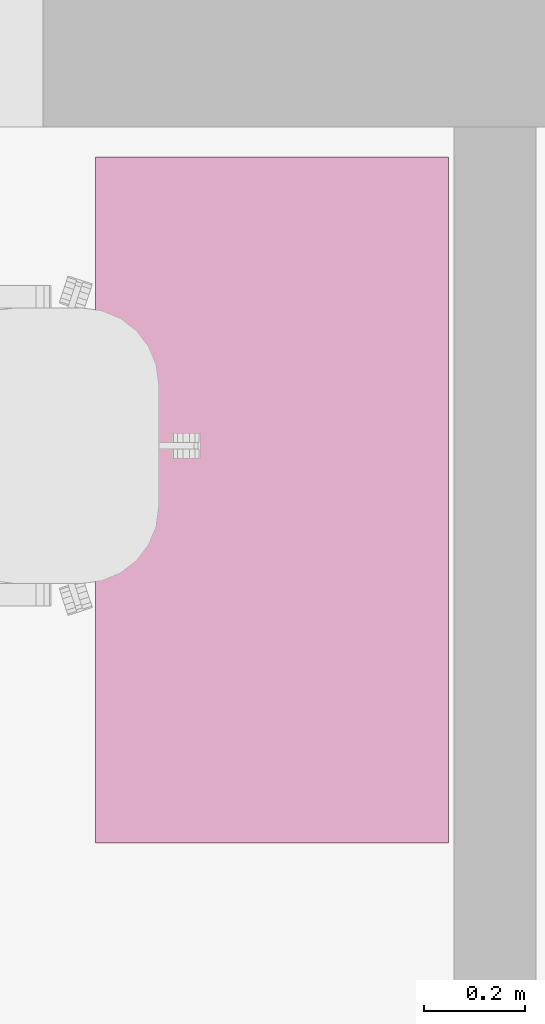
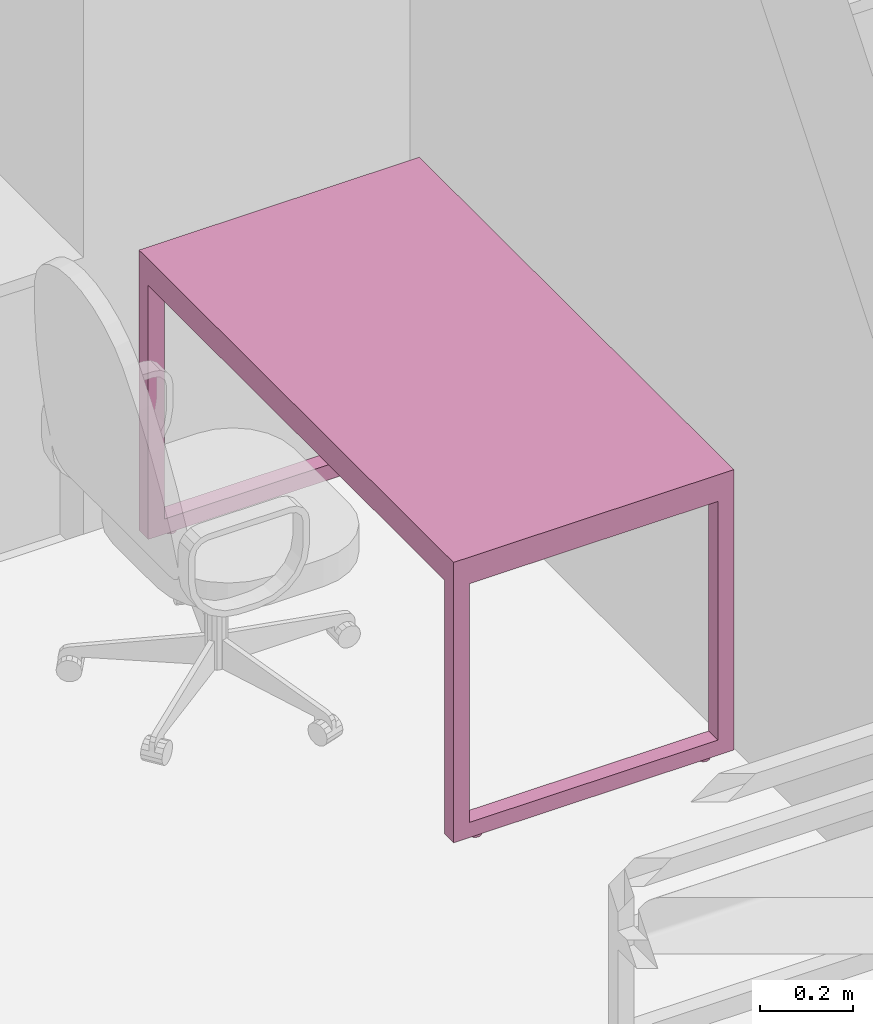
# One storey, part 43 of 46: 1 furnishing.
"""IFC2X3 building model written with IfcOpenShell, lengths in millimetres."""

from ifc_helpers import new_model, entity, si_unit, converted_unit, derived_unit, direction, frame, origin, place, context, subcontext, project, spatial, faceted_brep, source, transform, mapped, material, material_list, type_object, type_shapes, element, save


model = new_model("IFC2X3")

# Units and contexts
model_context = context("Model", 3, precision=0.01, world=origin(), true_north=direction((6.12303176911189e-17, 1.0)))
body_context = subcontext(model_context, "Body", "Model", "MODEL_VIEW")
ifc_project = project(units=[si_unit("LENGTHUNIT", "METRE", prefix="MILLI"), si_unit("AREAUNIT", "SQUARE_METRE"), si_unit("VOLUMEUNIT", "CUBIC_METRE"), converted_unit("PLANEANGLEUNIT", "DEGREE", entity("IfcRatioMeasure", 0.0174532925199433), si_unit("PLANEANGLEUNIT", "RADIAN"), dimensions=[0, 0, 0, 0, 0, 0, 0]), si_unit("MASSUNIT", "GRAM", prefix="KILO"), derived_unit("MASSDENSITYUNIT", [(si_unit("MASSUNIT", "GRAM", prefix="KILO"), 1), (si_unit("LENGTHUNIT", "METRE"), -3)]), si_unit("TIMEUNIT", "SECOND"), si_unit("FREQUENCYUNIT", "HERTZ"), si_unit("THERMODYNAMICTEMPERATUREUNIT", "DEGREE_CELSIUS"), derived_unit("THERMALTRANSMITTANCEUNIT", [(si_unit("MASSUNIT", "GRAM", prefix="KILO"), 1), (si_unit("THERMODYNAMICTEMPERATUREUNIT", "KELVIN"), -1), (si_unit("TIMEUNIT", "SECOND"), -3)]), derived_unit("VOLUMETRICFLOWRATEUNIT", [(si_unit("LENGTHUNIT", "METRE"), 3), (si_unit("TIMEUNIT", "SECOND"), -1)]), si_unit("ELECTRICCURRENTUNIT", "AMPERE"), si_unit("ELECTRICVOLTAGEUNIT", "VOLT"), si_unit("POWERUNIT", "WATT"), si_unit("FORCEUNIT", "NEWTON", prefix="KILO"), si_unit("ILLUMINANCEUNIT", "LUX"), si_unit("LUMINOUSFLUXUNIT", "LUMEN"), si_unit("LUMINOUSINTENSITYUNIT", "CANDELA"), derived_unit("USERDEFINED", [(si_unit("MASSUNIT", "GRAM", prefix="KILO"), -1), (si_unit("LENGTHUNIT", "METRE"), -2), (si_unit("TIMEUNIT", "SECOND"), 3), (si_unit("LUMINOUSFLUXUNIT", "LUMEN"), 1)]), derived_unit("LINEARVELOCITYUNIT", [(si_unit("LENGTHUNIT", "METRE"), 1), (si_unit("TIMEUNIT", "SECOND"), -1)]), si_unit("PRESSUREUNIT", "PASCAL"), derived_unit("USERDEFINED", [(si_unit("LENGTHUNIT", "METRE"), -2), (si_unit("MASSUNIT", "GRAM", prefix="KILO"), 1), (si_unit("TIMEUNIT", "SECOND"), -2)]), derived_unit("LINEARFORCEUNIT", [(si_unit("MASSUNIT", "GRAM", prefix="KILO"), 1), (si_unit("LENGTHUNIT", "METRE"), 1), (si_unit("TIMEUNIT", "SECOND"), -2), (si_unit("LENGTHUNIT", "METRE"), -1)]), derived_unit("PLANARFORCEUNIT", [(si_unit("MASSUNIT", "GRAM", prefix="KILO"), 1), (si_unit("LENGTHUNIT", "METRE"), 1), (si_unit("TIMEUNIT", "SECOND"), -2), (si_unit("LENGTHUNIT", "METRE"), -2)])], contexts=[model_context])

# Site, building, storey, space
site_placement = place(None, origin())
site = spatial("IfcSite", under=ifc_project, at=site_placement, Name="Default", CompositionType="ELEMENT")
building_placement = place(site_placement, origin())
building = spatial("IfcBuilding", under=site, at=building_placement, Name="SMA ARH", CompositionType="ELEMENT")
storey_placement = place(building_placement, origin())
storey = spatial("IfcBuildingStorey", under=building, at=storey_placement, Name="1 Korrus", CompositionType="ELEMENT", Elevation=0.0)
space_placement = place(storey_placement, origin())
space = spatial("IfcSpace", under=storey, at=space_placement, Name="1-30", CompositionType="ELEMENT", InteriorOrExteriorSpace="INTERNAL")

# Furnishing
ifc_material = material(Name="<Unnamed>")
ifc_material_list = material_list([ifc_material, ifc_material])
furniture_type = type_object("IfcFurnitureType", Name="kirjutuslaud 1360x700mm:kirjutuslaud 1360x700mm", material=ifc_material_list)
shared_shape = source(origin(), body_context, "Body", "Brep", [
    faceted_brep([(680.0, -350.0, 720.0), (680.0, 350.0, 720.0), (680.0, 350.0, 750.0), (680.0, -350.0, 750.0), (-680.0, -350.0, 720.0), (-680.0, -350.0, 750.0), (-680.0, 350.0, 750.0), (-680.0, 350.0, 720.0)], [[[0, 1, 2, 3]], [[4, 5, 6, 7]], [[1, 0, 4, 7]], [[2, 1, 7, 6]], [[3, 2, 6, 5]], [[0, 3, 5, 4]]]),
    faceted_brep([(-640.0, -310.0, 680.0), (-640.0, 310.0, 680.0), (-640.0, 310.0, 720.0), (-640.0, -310.0, 720.0), (-680.0, -350.0, 720.0), (-680.0, 350.0, 720.0), (-680.0, 350.0, 10.0), (-680.0, -350.0, 10.0), (-680.0, 310.0, 680.0), (-680.0, -310.0, 680.0), (-680.0, -310.0, 50.0), (-680.0, 310.0, 50.0), (-640.0, -350.0, 10.0), (-640.0, -350.0, 680.0), (640.0, -350.0, 680.0), (640.0, -350.0, 10.0), (680.0, -350.0, 10.0), (680.0, -350.0, 720.0), (-640.0, 350.0, 10.0), (680.0, 350.0, 720.0), (680.0, 350.0, 10.0), (640.0, 350.0, 10.0), (640.0, 350.0, 680.0), (-640.0, 350.0, 680.0), (640.0, 310.0, 720.0), (640.0, -310.0, 720.0), (-640.0, 310.0, 50.0), (-640.0, -310.0, 50.0), (640.0, -310.0, 680.0), (640.0, 310.0, 680.0), (680.0, 310.0, 680.0), (680.0, 310.0, 50.0), (680.0, -310.0, 50.0), (680.0, -310.0, 680.0), (640.0, -310.0, 50.0), (640.0, 310.0, 50.0)], [[[0, 1, 2, 3]], [[4, 5, 6, 7], [8, 9, 10, 11]], [[4, 7, 12, 13, 14, 15, 16, 17]], [[18, 12, 7, 6]], [[6, 5, 19, 20, 21, 22, 23, 18]], [[19, 5, 4, 17], [2, 24, 25, 3]], [[26, 1, 8, 11]], [[27, 26, 11, 10]], [[0, 27, 10, 9]], [[1, 0, 9, 8]], [[14, 13, 0, 28]], [[24, 2, 1, 29]], [[3, 25, 28, 0]], [[17, 16, 20, 19], [30, 31, 32, 33]], [[21, 15, 14, 28, 34, 35, 29, 22]], [[20, 16, 15, 21]], [[31, 30, 29, 35]], [[32, 31, 35, 34]], [[33, 32, 34, 28]], [[30, 33, 28, 29]], [[29, 28, 25, 24]], [[29, 1, 23, 22]], [[12, 18, 23, 1, 26, 27, 0, 13]]]),
    faceted_brep([(-663.729456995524, -270.466136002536, 0.0), (-659.847171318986, -269.955023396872, 0.0), (-655.964885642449, -270.466136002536, 0.0), (-652.347171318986, -271.964642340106, 0.0), (-649.240569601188, -274.348421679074, 0.0), (-646.85679026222, -277.455023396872, 0.0), (-645.35828392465, -281.072737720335, 0.0), (-644.847171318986, -284.955023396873, 0.0), (-645.35828392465, -288.83730907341, 0.0), (-646.85679026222, -292.455023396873, 0.0), (-649.240569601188, -295.561625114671, 0.0), (-652.347171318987, -297.945404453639, 0.0), (-655.964885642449, -299.443910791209, 0.0), (-659.847171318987, -299.955023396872, 0.0), (-663.729456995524, -299.443910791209, 0.0), (-667.347171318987, -297.945404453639, 0.0), (-670.453773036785, -295.561625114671, 0.0), (-672.837552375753, -292.455023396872, 0.0), (-674.336058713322, -288.83730907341, 0.0), (-674.847171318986, -284.955023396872, 0.0), (-674.336058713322, -281.072737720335, 0.0), (-672.837552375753, -277.455023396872, 0.0), (-670.453773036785, -274.348421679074, 0.0), (-667.347171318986, -271.964642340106, 0.0), (-655.964885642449, -299.443910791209, 10.0), (-652.347171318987, -297.945404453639, 10.0), (-649.240569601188, -295.561625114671, 10.0), (-646.85679026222, -292.455023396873, 10.0), (-645.35828392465, -288.83730907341, 10.0), (-644.847171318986, -284.955023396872, 10.0), (-645.35828392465, -281.072737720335, 10.0), (-646.85679026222, -277.455023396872, 10.0), (-649.240569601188, -274.348421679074, 10.0), (-652.347171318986, -271.964642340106, 10.0), (-655.964885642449, -270.466136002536, 10.0), (-659.847171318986, -269.955023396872, 10.0), (-663.729456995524, -270.466136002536, 10.0), (-667.347171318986, -271.964642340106, 10.0), (-670.453773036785, -274.348421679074, 10.0), (-672.837552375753, -277.455023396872, 10.0), (-674.336058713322, -281.072737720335, 10.0), (-674.847171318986, -284.955023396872, 10.0), (-674.336058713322, -288.83730907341, 10.0), (-672.837552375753, -292.455023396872, 10.0), (-670.453773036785, -295.561625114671, 10.0), (-667.347171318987, -297.945404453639, 10.0), (-663.729456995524, -299.443910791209, 10.0), (-659.847171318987, -299.955023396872, 10.0)], [[[0, 1, 2, 3, 4, 5, 6, 7, 8, 9, 10, 11, 12, 13, 14, 15, 16, 17, 18, 19, 20, 21, 22, 23]], [[24, 25, 26, 27, 28, 29, 30, 31, 32, 33, 34, 35, 36, 37, 38, 39, 40, 41, 42, 43, 44, 45, 46, 47]], [[18, 42, 41, 19]], [[17, 43, 42, 18]], [[45, 44, 16, 15]], [[17, 16, 44, 43]], [[46, 45, 15, 14]], [[47, 46, 14, 13]], [[12, 24, 47, 13]], [[11, 25, 24, 12]], [[27, 26, 10, 9]], [[11, 10, 26, 25]], [[28, 27, 9, 8]], [[29, 28, 8, 7]], [[6, 30, 29, 7]], [[5, 31, 30, 6]], [[33, 32, 4, 3]], [[5, 4, 32, 31]], [[34, 33, 3, 2]], [[35, 34, 2, 1]], [[0, 36, 35, 1]], [[23, 37, 36, 0]], [[39, 38, 22, 21]], [[23, 22, 38, 37]], [[40, 39, 21, 20]], [[41, 40, 20, 19]]]),
    faceted_brep([(-655.964885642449, 270.466136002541, 10.0), (-652.347171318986, 271.964642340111, 10.0), (-649.240569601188, 274.348421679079, 10.0), (-646.85679026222, 277.455023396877, 10.0), (-645.35828392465, 281.07273772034, 10.0), (-644.847171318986, 284.955023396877, 10.0), (-645.35828392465, 288.837309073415, 10.0), (-646.85679026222, 292.455023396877, 10.0), (-649.240569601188, 295.561625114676, 10.0), (-652.347171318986, 297.945404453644, 10.0), (-655.964885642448, 299.443910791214, 10.0), (-659.847171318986, 299.955023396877, 10.0), (-663.729456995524, 299.443910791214, 10.0), (-667.347171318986, 297.945404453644, 10.0), (-670.453773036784, 295.561625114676, 10.0), (-672.837552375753, 292.455023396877, 10.0), (-674.336058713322, 288.837309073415, 10.0), (-674.847171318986, 284.955023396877, 10.0), (-674.336058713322, 281.07273772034, 10.0), (-672.837552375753, 277.455023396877, 10.0), (-670.453773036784, 274.348421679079, 10.0), (-667.347171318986, 271.964642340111, 10.0), (-663.729456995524, 270.466136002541, 10.0), (-659.847171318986, 269.955023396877, 10.0), (-655.964885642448, 299.443910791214, 0.0), (-652.347171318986, 297.945404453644, 0.0), (-649.240569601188, 295.561625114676, 0.0), (-646.85679026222, 292.455023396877, 0.0), (-645.35828392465, 288.837309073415, 0.0), (-644.847171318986, 284.955023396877, 0.0), (-645.35828392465, 281.07273772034, 0.0), (-646.85679026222, 277.455023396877, 0.0), (-649.240569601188, 274.348421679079, 0.0), (-652.347171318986, 271.964642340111, 0.0), (-655.964885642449, 270.466136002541, 0.0), (-659.847171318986, 269.955023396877, 0.0), (-663.729456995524, 270.466136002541, 0.0), (-667.347171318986, 271.964642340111, 0.0), (-670.453773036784, 274.348421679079, 0.0), (-672.837552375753, 277.455023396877, 0.0), (-674.336058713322, 281.07273772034, 0.0), (-674.847171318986, 284.955023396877, 0.0), (-674.336058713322, 288.837309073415, 0.0), (-672.837552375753, 292.455023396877, 0.0), (-670.453773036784, 295.561625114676, 0.0), (-667.347171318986, 297.945404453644, 0.0), (-663.729456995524, 299.443910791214, 0.0), (-659.847171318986, 299.955023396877, 0.0)], [[[0, 1, 2, 3, 4, 5, 6, 7, 8, 9, 10, 11, 12, 13, 14, 15, 16, 17, 18, 19, 20, 21, 22, 23]], [[24, 25, 26, 27, 28, 29, 30, 31, 32, 33, 34, 35, 36, 37, 38, 39, 40, 41, 42, 43, 44, 45, 46, 47]], [[40, 18, 17, 41]], [[39, 19, 18, 40]], [[21, 20, 38, 37]], [[39, 38, 20, 19]], [[22, 21, 37, 36]], [[23, 22, 36, 35]], [[34, 0, 23, 35]], [[33, 1, 0, 34]], [[3, 2, 32, 31]], [[33, 32, 2, 1]], [[4, 3, 31, 30]], [[5, 4, 30, 29]], [[28, 6, 5, 29]], [[27, 7, 6, 28]], [[9, 8, 26, 25]], [[27, 26, 8, 7]], [[10, 9, 25, 24]], [[11, 10, 24, 47]], [[46, 12, 11, 47]], [[45, 13, 12, 46]], [[15, 14, 44, 43]], [[45, 44, 14, 13]], [[16, 15, 43, 42]], [[17, 16, 42, 41]]]),
    faceted_brep([(656.270543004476, -270.466136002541, 0.0), (660.152828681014, -269.955023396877, 0.0), (664.035114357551, -270.466136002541, 0.0), (667.652828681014, -271.96464234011, 0.0), (670.759430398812, -274.348421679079, 0.0), (673.14320973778, -277.455023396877, 0.0), (674.64171607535, -281.072737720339, 0.0), (675.152828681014, -284.955023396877, 0.0), (674.64171607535, -288.837309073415, 0.0), (673.14320973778, -292.455023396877, 0.0), (670.759430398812, -295.561625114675, 0.0), (667.652828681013, -297.945404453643, 0.0), (664.035114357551, -299.443910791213, 0.0), (660.152828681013, -299.955023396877, 0.0), (656.270543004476, -299.443910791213, 0.0), (652.652828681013, -297.945404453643, 0.0), (649.546226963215, -295.561625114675, 0.0), (647.162447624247, -292.455023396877, 0.0), (645.663941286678, -288.837309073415, 0.0), (645.152828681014, -284.955023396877, 0.0), (645.663941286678, -281.072737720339, 0.0), (647.162447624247, -277.455023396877, 0.0), (649.546226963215, -274.348421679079, 0.0), (652.652828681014, -271.96464234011, 0.0), (664.035114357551, -299.443910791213, 10.0), (667.652828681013, -297.945404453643, 10.0), (670.759430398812, -295.561625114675, 10.0), (673.14320973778, -292.455023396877, 10.0), (674.64171607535, -288.837309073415, 10.0), (675.152828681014, -284.955023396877, 10.0), (674.64171607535, -281.072737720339, 10.0), (673.14320973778, -277.455023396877, 10.0), (670.759430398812, -274.348421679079, 10.0), (667.652828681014, -271.96464234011, 10.0), (664.035114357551, -270.466136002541, 10.0), (660.152828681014, -269.955023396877, 10.0), (656.270543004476, -270.466136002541, 10.0), (652.652828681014, -271.96464234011, 10.0), (649.546226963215, -274.348421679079, 10.0), (647.162447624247, -277.455023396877, 10.0), (645.663941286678, -281.072737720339, 10.0), (645.152828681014, -284.955023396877, 10.0), (645.663941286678, -288.837309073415, 10.0), (647.162447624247, -292.455023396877, 10.0), (649.546226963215, -295.561625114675, 10.0), (652.652828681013, -297.945404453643, 10.0), (656.270543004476, -299.443910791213, 10.0), (660.152828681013, -299.955023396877, 10.0)], [[[0, 1, 2, 3, 4, 5, 6, 7, 8, 9, 10, 11, 12, 13, 14, 15, 16, 17, 18, 19, 20, 21, 22, 23]], [[24, 25, 26, 27, 28, 29, 30, 31, 32, 33, 34, 35, 36, 37, 38, 39, 40, 41, 42, 43, 44, 45, 46, 47]], [[18, 42, 41, 19]], [[17, 43, 42, 18]], [[45, 44, 16, 15]], [[17, 16, 44, 43]], [[46, 45, 15, 14]], [[47, 46, 14, 13]], [[12, 24, 47, 13]], [[11, 25, 24, 12]], [[27, 26, 10, 9]], [[11, 10, 26, 25]], [[28, 27, 9, 8]], [[29, 28, 8, 7]], [[6, 30, 29, 7]], [[5, 31, 30, 6]], [[33, 32, 4, 3]], [[5, 4, 32, 31]], [[34, 33, 3, 2]], [[35, 34, 2, 1]], [[0, 36, 35, 1]], [[23, 37, 36, 0]], [[39, 38, 22, 21]], [[23, 22, 38, 37]], [[40, 39, 21, 20]], [[41, 40, 20, 19]]]),
    faceted_brep([(664.035114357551, 270.466136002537, 10.0), (667.652828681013, 271.964642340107, 10.0), (670.759430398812, 274.348421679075, 10.0), (673.14320973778, 277.455023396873, 10.0), (674.64171607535, 281.072737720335, 10.0), (675.152828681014, 284.955023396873, 10.0), (674.64171607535, 288.837309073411, 10.0), (673.14320973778, 292.455023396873, 10.0), (670.759430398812, 295.561625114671, 10.0), (667.652828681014, 297.94540445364, 10.0), (664.035114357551, 299.443910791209, 10.0), (660.152828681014, 299.955023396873, 10.0), (656.270543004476, 299.443910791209, 10.0), (652.652828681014, 297.94540445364, 10.0), (649.546226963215, 295.561625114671, 10.0), (647.162447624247, 292.455023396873, 10.0), (645.663941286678, 288.837309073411, 10.0), (645.152828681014, 284.955023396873, 10.0), (645.663941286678, 281.072737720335, 10.0), (647.162447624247, 277.455023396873, 10.0), (649.546226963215, 274.348421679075, 10.0), (652.652828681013, 271.964642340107, 10.0), (656.270543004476, 270.466136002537, 10.0), (660.152828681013, 269.955023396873, 10.0), (664.035114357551, 299.443910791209, 0.0), (667.652828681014, 297.94540445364, 0.0), (670.759430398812, 295.561625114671, 0.0), (673.14320973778, 292.455023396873, 0.0), (674.64171607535, 288.837309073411, 0.0), (675.152828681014, 284.955023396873, 0.0), (674.64171607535, 281.072737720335, 0.0), (673.14320973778, 277.455023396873, 0.0), (670.759430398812, 274.348421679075, 0.0), (667.652828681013, 271.964642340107, 0.0), (664.035114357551, 270.466136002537, 0.0), (660.152828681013, 269.955023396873, 0.0), (656.270543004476, 270.466136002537, 0.0), (652.652828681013, 271.964642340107, 0.0), (649.546226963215, 274.348421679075, 0.0), (647.162447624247, 277.455023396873, 0.0), (645.663941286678, 281.072737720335, 0.0), (645.152828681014, 284.955023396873, 0.0), (645.663941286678, 288.837309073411, 0.0), (647.162447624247, 292.455023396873, 0.0), (649.546226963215, 295.561625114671, 0.0), (652.652828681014, 297.94540445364, 0.0), (656.270543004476, 299.443910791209, 0.0), (660.152828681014, 299.955023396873, 0.0)], [[[0, 1, 2, 3, 4, 5, 6, 7, 8, 9, 10, 11, 12, 13, 14, 15, 16, 17, 18, 19, 20, 21, 22, 23]], [[24, 25, 26, 27, 28, 29, 30, 31, 32, 33, 34, 35, 36, 37, 38, 39, 40, 41, 42, 43, 44, 45, 46, 47]], [[40, 18, 17, 41]], [[39, 19, 18, 40]], [[21, 20, 38, 37]], [[39, 38, 20, 19]], [[22, 21, 37, 36]], [[23, 22, 36, 35]], [[34, 0, 23, 35]], [[33, 1, 0, 34]], [[3, 2, 32, 31]], [[33, 32, 2, 1]], [[4, 3, 31, 30]], [[5, 4, 30, 29]], [[28, 6, 5, 29]], [[27, 7, 6, 28]], [[9, 8, 26, 25]], [[27, 26, 8, 7]], [[10, 9, 25, 24]], [[11, 10, 24, 47]], [[46, 12, 11, 47]], [[45, 13, 12, 46]], [[15, 14, 44, 43]], [[45, 44, 14, 13]], [[16, 15, 43, 42]], [[17, 16, 42, 41]]]),
])
type_shapes(furniture_type, [shared_shape])
furnishing_placement = place(space_placement, frame((30444.4365444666, 11760.0, 0.0), z_axis=(0.0, 0.0, 1.0), x_axis=(0.0, -1.0, 0.0)))
element("IfcFurnishingElement", 1, at=furnishing_placement, inside=space, type_object=furniture_type, Name="kirjutuslaud 1360x700mm:kirjutuslaud 1360x700mm", ObjectType="kirjutuslaud 1360x700mm:kirjutuslaud 1360x700mm", context=body_context, shape_type="MappedRepresentation", body=[
    mapped(shared_shape, transform((0.0, 0.0, 0.0), scale=1.0)),
])

save(model, "model.ifc")
